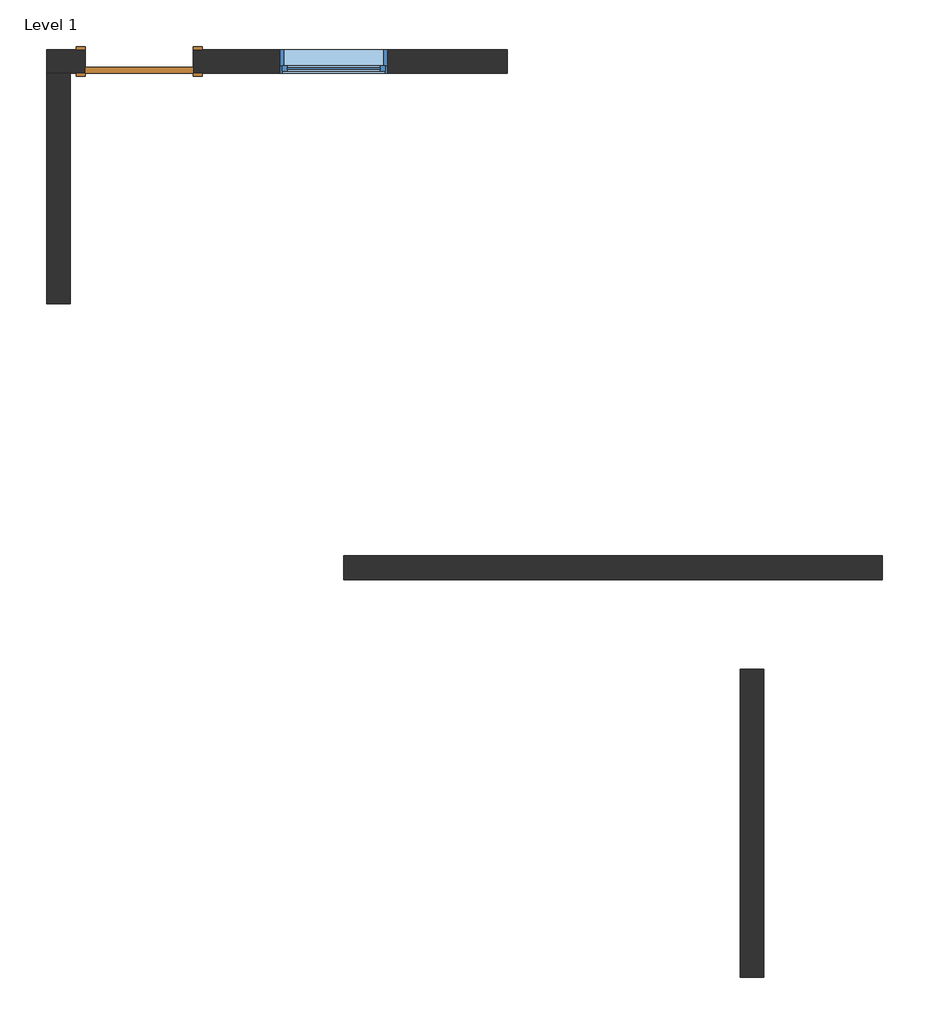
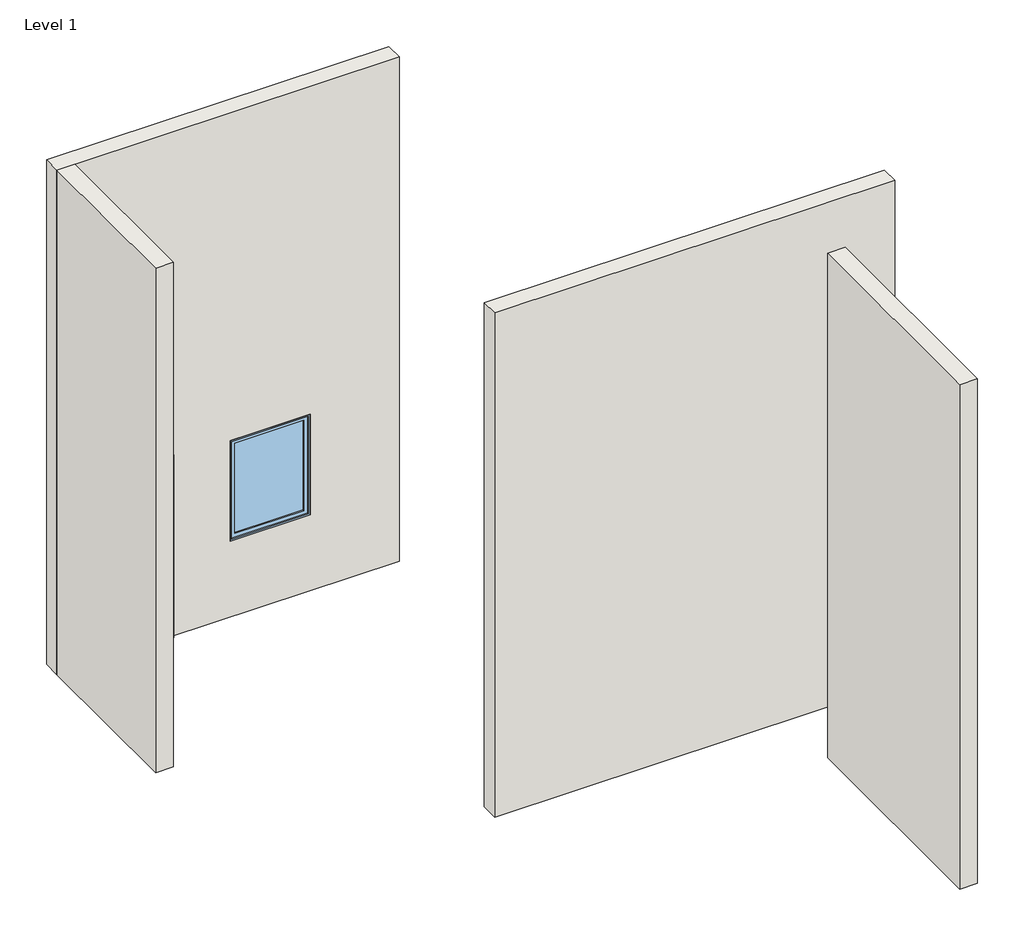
# One storey: 4 walls, 1 door, 1 window.
"""IFC4 building model written with IfcOpenShell, lengths in millimetres."""

from ifc_helpers import new_model, si_unit, origin, origin_with_axes, place, context, project, spatial, polyline, outline, extrude, faceted_brep, transform, mapped, element, save
from components import door_54dd4da4, window_e2841890

model = new_model("IFC4")

# Units and contexts
model_context = context("Model", 3, world=origin())
ifc_project = project(units=[si_unit("LENGTHUNIT", "METRE", prefix="MILLI")], contexts=[model_context])

# Site, building, storey
site = spatial("IfcSite", under=ifc_project)
building = spatial("IfcBuilding", under=site)
storey = spatial("IfcBuildingStorey", under=building, Name="Level 1", Elevation=0.0)

# Door
placement = place(None, origin())
door_shape = door_54dd4da4(model_context)
element("IfcDoor", 1, ObjectType="Single-Flush : 36\" x 84\"", at=placement, inside=storey, context=model_context, shape_type="MappedRepresentation", body=[
    mapped(door_shape, transform((1002.5435012, 12199.993224, 0.0), x_axis=(-1.0, 0.0, 0.0), y_axis=(0.0, -1.0, 0.0), z_axis=(0.0, 0.0, 1.0))),
])

# Walls
element("IfcWall", 2, ObjectType="Generic - 8\"", at=placement, inside=storey, context=model_context, shape_type="SweptSolid", body=[
    extrude(outline(polyline([(2737.0466317, 8002.8324689), (7309.0466317, 8002.8324689), (7309.0466317, 7799.6324689), (2737.0466317, 7799.6324689), (2737.0466317, 8002.8324689)])), origin_with_axes(), (0.0, 0.0, 1.0), 6096.0),
])
element("IfcWall", 3, ObjectType="Generic - 8\"", at=placement, inside=storey, context=model_context, shape_type="SweptSolid", body=[
    extrude(outline(polyline([(6103.5183241, 4423.0396466), (6103.5183241, 7039.2396466), (6306.7183241, 7039.2396466), (6306.7183241, 4423.0396466), (6103.5183241, 4423.0396466)])), origin_with_axes(), (0.0, 0.0, 1.0), 6096.0),
])
element("IfcWall", 4, ObjectType="Generic - 8\"", at=placement, inside=storey, context=model_context, shape_type="Brep", body=[
    faceted_brep([(4126.7435012, 12098.393224, 6096.0), (4126.7435012, 12098.393224, 0.0), (4126.7435012, 12301.593224, 0.0), (4126.7435012, 12301.593224, 6096.0), (215.1435012, 12301.593224, 0.0), (545.3435012, 12301.593224, 0.0), (545.3435012, 12098.393224, 0.0), (418.3435012, 12098.393224, 0.0), (215.1435012, 12098.393224, 0.0), (1459.7435012, 12301.593224, 0.0), (1459.7435012, 12098.393224, 0.0), (215.1435012, 12098.393224, 6096.0), (418.3435012, 12098.393224, 6096.0), (215.1435012, 12301.593224, 6096.0), (545.3435012, 12098.393224, 2133.6), (1459.7435012, 12098.393224, 2133.6), (2196.3435012, 12098.393224, 2133.6), (3110.7435012, 12098.393224, 2133.6), (3110.7435012, 12098.393224, 914.4), (2196.3435012, 12098.393224, 914.4), (545.3435012, 12301.593224, 2133.6), (1459.7435012, 12301.593224, 2133.6), (2196.3435012, 12301.593224, 2133.6), (2196.3435012, 12301.593224, 914.4), (3110.7435012, 12301.593224, 914.4), (3110.7435012, 12301.593224, 2133.6)], [[[0, 1, 2, 3]], [[4, 5, 6, 7, 8]], [[9, 2, 1, 10]], [[11, 12, 0, 3, 13]], [[8, 7, 6, 14, 15, 10, 1, 0, 12, 11], [16, 17, 18, 19]], [[20, 5, 4, 13, 3, 2, 9, 21], [22, 23, 24, 25]], [[8, 11, 13, 4]], [[14, 6, 5, 20]], [[15, 14, 20, 21]], [[10, 15, 21, 9]], [[23, 22, 16, 19]], [[24, 23, 19, 18]], [[25, 24, 18, 17]], [[22, 25, 17, 16]]]),
])
element("IfcWall", 5, ObjectType="Generic - 8\"", at=placement, inside=storey, context=model_context, shape_type="SweptSolid", body=[
    extrude(outline(polyline([(215.1435012, 10142.593224), (215.1435012, 12098.393224), (418.3435012, 12098.393224), (418.3435012, 10142.593224), (215.1435012, 10142.593224)])), origin_with_axes(), (0.0, 0.0, 1.0), 6096.0),
])

# Window
window_shape = window_e2841890(model_context)
element("IfcWindow", 6, ObjectType="Fixed : 36\" x 48\"", at=placement, inside=storey, context=model_context, shape_type="MappedRepresentation", body=[
    mapped(window_shape, transform((2615.4435012, 12199.993224, 0.0), x_axis=(-1.0, 0.0, 0.0), y_axis=(0.0, -1.0, 0.0), z_axis=(0.0, 0.0, 1.0))),
])

save(model, "model.ifc")
